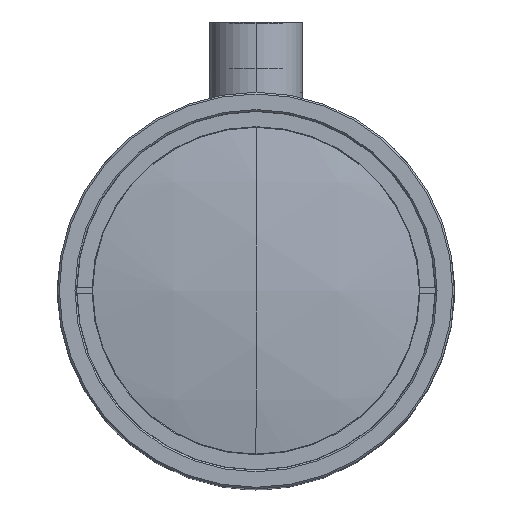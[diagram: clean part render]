
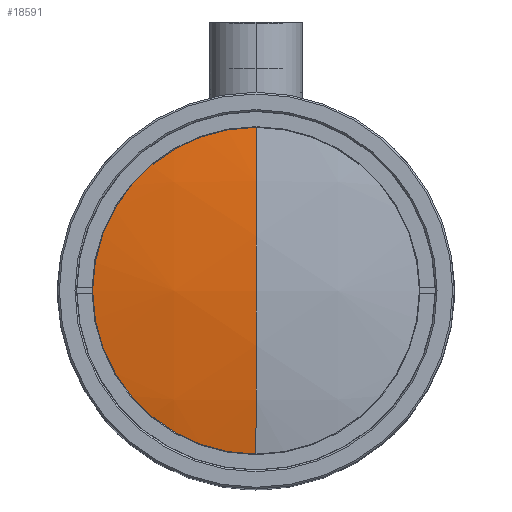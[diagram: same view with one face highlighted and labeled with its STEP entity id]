
A CAD part, top view. The second image highlights one B-rep face of the part: STEP entity #18591.
In plain terms, the highlighted spherical face has radius 142.85 mm.
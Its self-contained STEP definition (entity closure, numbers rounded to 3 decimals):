
#182 = CIRCLE ( 'NONE', #4743, 142.85 ) ;
#272 = CIRCLE ( 'NONE', #19138, 142.85 ) ;
#303 = VERTEX_POINT ( 'NONE', #5068 ) ;
#352 = EDGE_LOOP ( 'NONE', ( #22627, #13203, #31146 ) ) ;
#1170 = AXIS2_PLACEMENT_3D ( 'NONE', #18030, #29679, #23437 ) ;
#3718 = VERTEX_POINT ( 'NONE', #12010 ) ;
#4335 = DIRECTION ( 'NONE',  ( -1., 0., 0. ) ) ;
#4743 = AXIS2_PLACEMENT_3D ( 'NONE', #26526, #4335, #7360 ) ;
#5021 = EDGE_CURVE ( 'NONE', #303, #6935, #30393, .T. ) ;
#5068 = CARTESIAN_POINT ( 'NONE',  ( 0., 28.029, 296.223 ) ) ;
#6935 = VERTEX_POINT ( 'NONE', #32972 ) ;
#7360 = DIRECTION ( 'NONE',  ( 0., -1., 0. ) ) ;
#10945 = AXIS2_PLACEMENT_3D ( 'NONE', #25185, #16581, #22333 ) ;
#12010 = CARTESIAN_POINT ( 'NONE',  ( 0., 0., 299. ) ) ;
#12897 = DIRECTION ( 'NONE',  ( 0., 0., -1. ) ) ;
#13203 = ORIENTED_EDGE ( 'NONE', *, *, #28664, .T. ) ;
#13333 = EDGE_CURVE ( 'NONE', #303, #3718, #272, .T. ) ;
#13594 = DIRECTION ( 'NONE',  ( 1., 0., 0. ) ) ;
#16581 = DIRECTION ( 'NONE',  ( 0., 0., 1. ) ) ;
#18030 = CARTESIAN_POINT ( 'NONE',  ( 0., 0., 156.15 ) ) ;
#18591 = ADVANCED_FACE ( 'NONE', ( #29153 ), #29511, .T. ) ;
#19138 = AXIS2_PLACEMENT_3D ( 'NONE', #20425, #13594, #12897 ) ;
#20425 = CARTESIAN_POINT ( 'NONE',  ( 0., 0., 156.15 ) ) ;
#22333 = DIRECTION ( 'NONE',  ( 0., 1., 0. ) ) ;
#22627 = ORIENTED_EDGE ( 'NONE', *, *, #5021, .T. ) ;
#23437 = DIRECTION ( 'NONE',  ( 0., 1., 0. ) ) ;
#25185 = CARTESIAN_POINT ( 'NONE',  ( 0., 0., 296.223 ) ) ;
#26526 = CARTESIAN_POINT ( 'NONE',  ( 0., 0., 156.15 ) ) ;
#28664 = EDGE_CURVE ( 'NONE', #6935, #3718, #182, .T. ) ;
#29153 = FACE_OUTER_BOUND ( 'NONE', #352, .T. ) ;
#29511 = SPHERICAL_SURFACE ( 'NONE', #1170, 142.85 ) ;
#29679 = DIRECTION ( 'NONE',  ( -1., 0., 0. ) ) ;
#30393 = CIRCLE ( 'NONE', #10945, 28.029 ) ;
#31146 = ORIENTED_EDGE ( 'NONE', *, *, #13333, .F. ) ;
#32972 = CARTESIAN_POINT ( 'NONE',  ( 0., -28.029, 296.223 ) ) ;
